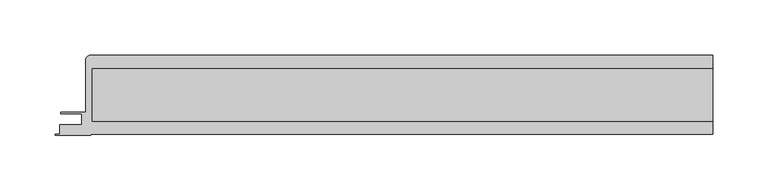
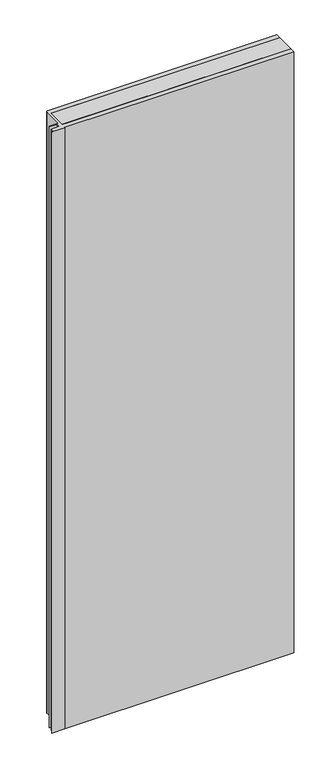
"""IFC4 building model written with IfcOpenShell, lengths in millimetres: plate geometry, Walls_External-Walls_Danpal_Danpatherm-K7-with-AIRPT-Frame : Walls_External-Walls_Danpal_Danpatherm-K7-with-AIRPT-Frame."""

from ifc_helpers import new_model, si_unit, point, frame, frame_2d, origin, place, context, project, spatial, polyline, circle_curve, trimmed, segment, composite_curve, outline, extrude, source, transform, mapped, element, save


def plate_4441f15f(model_context):
    return source(origin(), model_context, "Body", "SweptSolid", [
        extrude(outline(polyline([(-277.7129481, 60.3432727), (283.309327, 60.3432727), (283.309327, 12.7999917), (-277.7129481, 12.7999917), (-277.7129481, 60.3432727)])), frame((0.0, 0.0, -22.0), z_axis=(0.0, 0.0, 1.0), x_axis=(1.0, 0.0, 0.0)), (0.0, 0.0, 1.0), 1562.0),
        extrude(outline(composite_curve([segment(polyline([(-279.4664181, 72.343285), (283.309327, 72.343285), (283.309327, 60.3432727), (-277.7129481, 60.3432727), (-277.7129481, 12.7999917), (283.309327, 12.7999917), (283.309327, 0.8), (-279.0523184, 0.8), (-279.0523184, 0.0), (-310.9523184, 0.0), (-310.9523184, 0.8), (-306.7523184, 0.8), (-306.7523184, 9.7656785), (-286.9225586, 9.7656785), (-286.9225586, 19.6715177), (-305.8787043, 19.6715177), (-305.8787043, 20.9715623), (-283.309327, 20.9715623), (-283.309327, 68.5003761)]), True, "CONTINUOUS"), segment(trimmed(circle_curve(frame_2d((-279.4664181, 68.5003761)), 3.8429089), [point((-283.309327, 68.5003761))], [point((-279.4664181, 72.343285))], False, "CARTESIAN"), True, "CONTINUOUS")], self_intersect=False)), frame((0.0, 0.0, -22.0), z_axis=(0.0, 0.0, 1.0), x_axis=(1.0, 0.0, 0.0)), (0.0, 0.0, 1.0), 1562.0),
    ])


if __name__ == "__main__":
    model = new_model("IFC4")
    model_context = context("Model", 3, world=origin())
    ifc_project = project(units=[si_unit("LENGTHUNIT", "METRE", prefix="MILLI")], contexts=[model_context])
    site = spatial("IfcSite", under=ifc_project)
    building = spatial("IfcBuilding", under=site)
    placement = place(None, origin())
    plate_shape = plate_4441f15f(model_context)
    element("IfcPlate", 1, ObjectType="Walls_External-Walls_Danpal_Danpatherm-K7-with-AIRPT-Frame : Walls_External-Walls_Danpal_Danpatherm-K7-with-AIRPT-Frame", at=placement, inside=building, context=model_context, shape_type="MappedRepresentation", body=[
        mapped(plate_shape, transform((0.0, 0.0, 0.0), x_axis=(1.0, 0.0, 0.0), y_axis=(0.0, 1.0, 0.0), z_axis=(0.0, 0.0, 1.0))),
    ])
    save(model, "model.ifc")
